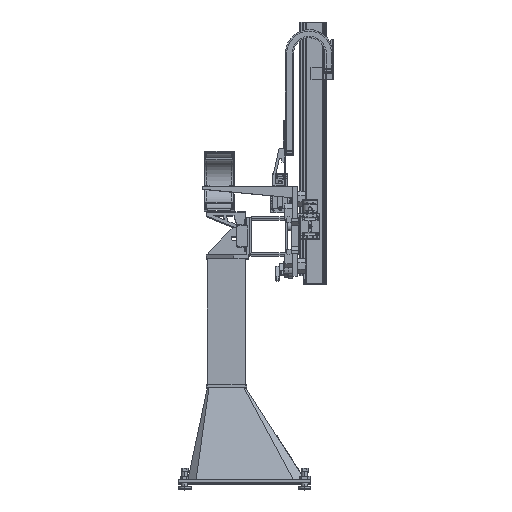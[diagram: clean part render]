
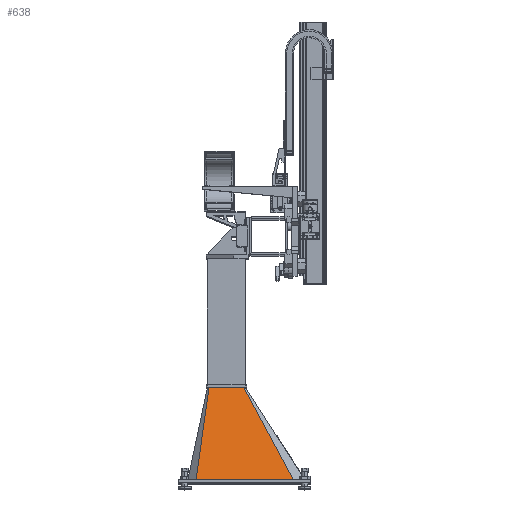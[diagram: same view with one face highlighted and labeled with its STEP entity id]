
A CAD part, top view. The second image highlights one B-rep face of the part: STEP entity #638.
In plain terms, the highlighted planar face has unit normal (0, 0.233, 0.972).
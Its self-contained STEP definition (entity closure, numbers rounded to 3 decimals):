
#638 = ADVANCED_FACE ( 'NONE', ( #37977 ), #19766, .T. ) ;
#1039 = CARTESIAN_POINT ( 'NONE',  ( -137.5, 805., 150. ) ) ;
#2710 = CARTESIAN_POINT ( 'NONE',  ( 530., 75., 325. ) ) ;
#3748 = CARTESIAN_POINT ( 'NONE',  ( 137.5, 805., 150. ) ) ;
#4090 = DIRECTION ( 'NONE',  ( 0., 0.233, 0.972 ) ) ;
#4641 = LINE ( 'NONE', #14671, #20330 ) ;
#4876 = LINE ( 'NONE', #34187, #31220 ) ;
#6127 = VECTOR ( 'NONE', #55340, 1000. ) ;
#6403 = ORIENTED_EDGE ( 'NONE', *, *, #67316, .T. ) ;
#6415 = VERTEX_POINT ( 'NONE', #2710 ) ;
#6948 = ORIENTED_EDGE ( 'NONE', *, *, #35921, .T. ) ;
#10943 = ORIENTED_EDGE ( 'NONE', *, *, #55104, .T. ) ;
#14671 = CARTESIAN_POINT ( 'NONE',  ( -137.5, 805., 150. ) ) ;
#18166 = VERTEX_POINT ( 'NONE', #3748 ) ;
#18516 = LINE ( 'NONE', #18543, #6127 ) ;
#18543 = CARTESIAN_POINT ( 'NONE',  ( 530., 75., 325. ) ) ;
#18591 = DIRECTION ( 'NONE',  ( 0.463, -0.862, 0.207 ) ) ;
#19766 = PLANE ( 'NONE',  #54347 ) ;
#20330 = VECTOR ( 'NONE', #51426, 1000. ) ;
#31220 = VECTOR ( 'NONE', #18591, 1000. ) ;
#31305 = EDGE_LOOP ( 'NONE', ( #10943, #6403, #65531, #6948 ) ) ;
#33583 = EDGE_CURVE ( 'NONE', #18166, #6415, #4876, .T. ) ;
#34187 = CARTESIAN_POINT ( 'NONE',  ( 137.5, 805., 150. ) ) ;
#35921 = EDGE_CURVE ( 'NONE', #18166, #41622, #63286, .T. ) ;
#37860 = DIRECTION ( 'NONE',  ( -1., 0., 0. ) ) ;
#37977 = FACE_OUTER_BOUND ( 'NONE', #31305, .T. ) ;
#40933 = DIRECTION ( 'NONE',  ( 0., -0.972, 0.233 ) ) ;
#41622 = VERTEX_POINT ( 'NONE', #44480 ) ;
#44480 = CARTESIAN_POINT ( 'NONE',  ( -137.5, 805., 150. ) ) ;
#51426 = DIRECTION ( 'NONE',  ( -0.135, -0.964, 0.231 ) ) ;
#54347 = AXIS2_PLACEMENT_3D ( 'NONE', #56607, #4090, #40933 ) ;
#54382 = CARTESIAN_POINT ( 'NONE',  ( -240., 75., 325. ) ) ;
#55104 = EDGE_CURVE ( 'NONE', #41622, #62910, #4641, .T. ) ;
#55340 = DIRECTION ( 'NONE',  ( 1., 0., 0. ) ) ;
#56607 = CARTESIAN_POINT ( 'NONE',  ( 0., 77.753, 324.34 ) ) ;
#60061 = VECTOR ( 'NONE', #37860, 1000. ) ;
#62910 = VERTEX_POINT ( 'NONE', #54382 ) ;
#63286 = LINE ( 'NONE', #1039, #60061 ) ;
#65531 = ORIENTED_EDGE ( 'NONE', *, *, #33583, .F. ) ;
#67316 = EDGE_CURVE ( 'NONE', #62910, #6415, #18516, .T. ) ;
